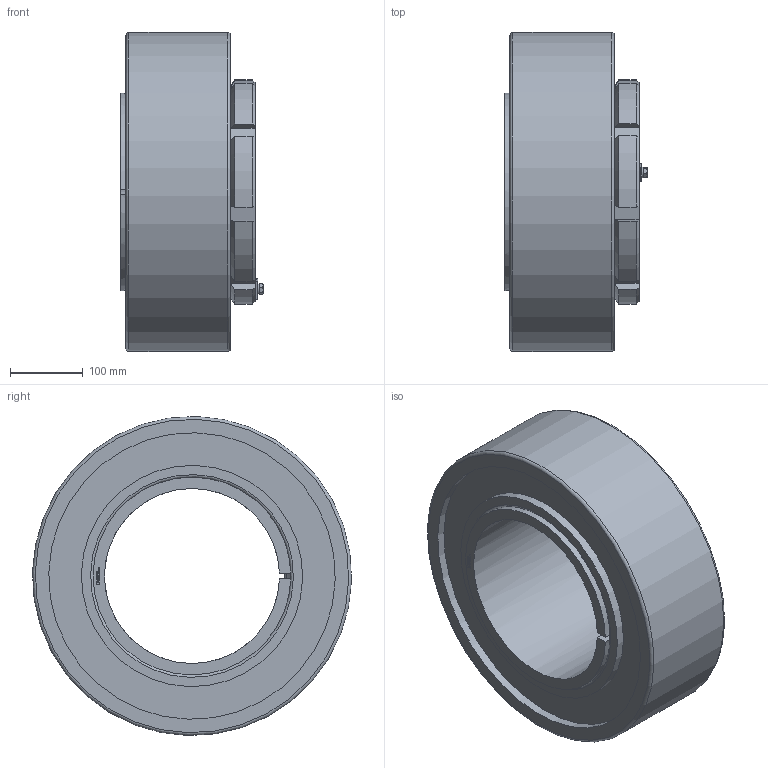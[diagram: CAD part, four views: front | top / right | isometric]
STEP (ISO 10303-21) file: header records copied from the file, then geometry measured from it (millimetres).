
FILE_DESCRIPTION( ( 'STEP AP203' ), ' ' );
FILE_NAME( 'p:/temp/worker_128/3812_2852/app_90_02016102823021498813666192d056f_000000_00_00_000000/format_0/BGL HE 3152 TL+C3152K.stp', '2016-10-28T21:02:17', ( '' ), ( '' ), ' ', 'PARTsolutions', ' ' );
FILE_SCHEMA( ( 'CONFIG_CONTROL_DESIGN' ) );
Length unit declared in the file: millimetre
Products named in the file (6): BGL HE 3152 TL+C3152K; _BGLHE3152TLB; _BGL HM 3052; _BGLHE3152TL+HE-C3152K; _BGL MS 3048-BGL MS 3052part; _BGL MS 3048-BGL MS 3052HHS
Assembly tree (5 placements, depth 2):
  BGL HE 3152 TL+C3152K
    _BGLHE3152TLB
    _BGL HM 3052
    _BGLHE3152TL+HE-C3152K
    _BGL MS 3048-BGL MS 3052part
    _BGL MS 3048-BGL MS 3052HHS
Bounding box: 196.05 x 439.85 x 439.85 mm (x, y, z)
Volume: 15111065.3 mm3; surface area: 980630.5 mm2
Topology: 5 solids, 5 shells, 351 faces, 899 edges, 589 vertices
Faces by surface type: plane 230, cylinder 79, cone 38, torus 4
Full cylindrical faces by diameter (mm): 8 x9, 9 x1, 14.8 x1, 256 x1, 305 x2, 395 x2, 440 x1
Entity records: 10762 total; most frequent: CARTESIAN_POINT 2104, DIRECTION 1729, ORIENTED_EDGE 1726, EDGE_CURVE 863, VERTEX_POINT 586, AXIS2_PLACEMENT_3D 577, LINE 575, VECTOR 575
